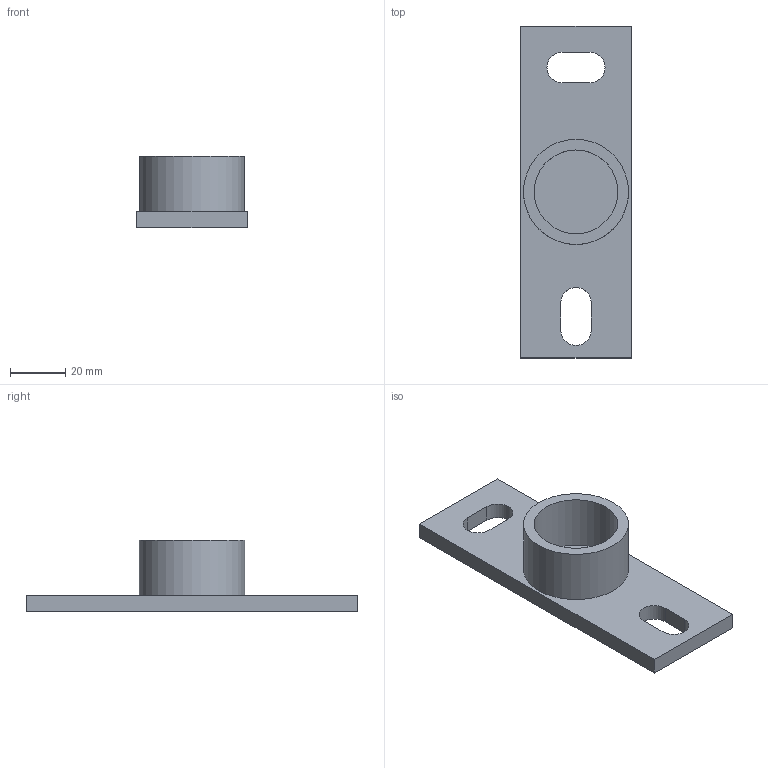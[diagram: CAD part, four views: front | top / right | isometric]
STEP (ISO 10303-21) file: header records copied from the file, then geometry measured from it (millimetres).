
FILE_DESCRIPTION(/* description */ (''),/* implementation_level */ '2;1');
FILE_NAME(/* name */ 'H:\Geberit-Teile\Export\GrundPl eckig\stp\362828.stp',/* time_stamp */ '2015-04-15T11:30:15+02:00',/* author */ ('seihe2'),/* organization */ (''),/* preprocessor_version */ 'ST-DEVELOPER v15.2',/* originating_system */ 'Autodesk Inventor 2014',/* authorisation */ '');
FILE_SCHEMA (('AUTOMOTIVE_DESIGN { 1 0 10303 214 3 1 1 }'));
Length unit declared in the file: millimetre
Products named in the file (1): 362828
Bounding box: 40 x 120 x 26 mm (x, y, z)
Volume: 34609.1 mm3; surface area: 15645.4 mm2
Topology: 1 solids, 1 shells, 18 faces, 42 edges, 28 vertices
Faces by surface type: plane 12, cylinder 6
Full cylindrical faces by diameter (mm): 30.291 x1, 38 x1
Entity records: 555 total; most frequent: DIRECTION 90, CARTESIAN_POINT 87, ORIENTED_EDGE 80, EDGE_CURVE 40, AXIS2_PLACEMENT_3D 31, LINE 28, VECTOR 28, VERTEX_POINT 28
